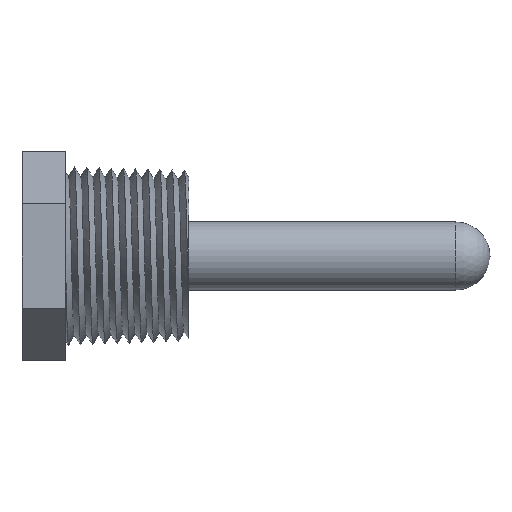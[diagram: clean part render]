
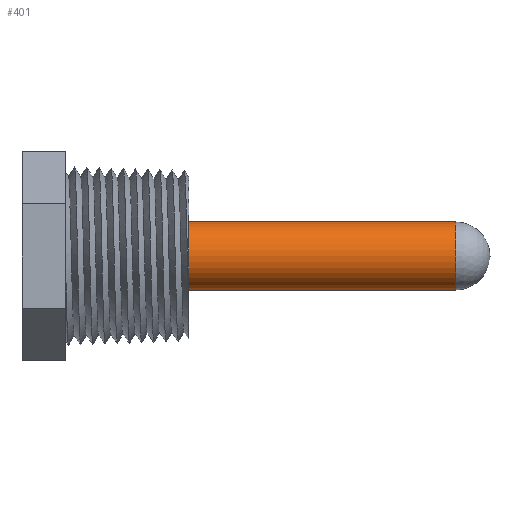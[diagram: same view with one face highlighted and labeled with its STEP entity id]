
A CAD part, front view. The second image highlights one B-rep face of the part: STEP entity #401.
In plain terms, the highlighted cylindrical face has radius 5.08 mm (diameter 10.16 mm), a full revolution.
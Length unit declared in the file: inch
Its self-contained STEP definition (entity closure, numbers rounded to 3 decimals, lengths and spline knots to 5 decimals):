
#18=CYLINDRICAL_SURFACE('',#447,0.2);
#27=CIRCLE('',#442,0.2);
#31=CIRCLE('',#448,0.2);
#32=CIRCLE('',#449,0.2);
#77=FACE_OUTER_BOUND('',#100,.T.);
#100=EDGE_LOOP('',(#318,#319,#320,#321,#322));
#129=LINE('',#4811,#151);
#151=VECTOR('',#519,0.2);
#177=VERTEX_POINT('',#4798);
#181=VERTEX_POINT('',#4808);
#182=VERTEX_POINT('',#4809);
#229=EDGE_CURVE('',#177,#177,#27,.T.);
#233=EDGE_CURVE('',#181,#182,#31,.T.);
#234=EDGE_CURVE('',#181,#177,#129,.T.);
#235=EDGE_CURVE('',#182,#181,#32,.T.);
#318=ORIENTED_EDGE('',*,*,#233,.F.);
#319=ORIENTED_EDGE('',*,*,#234,.T.);
#320=ORIENTED_EDGE('',*,*,#229,.T.);
#321=ORIENTED_EDGE('',*,*,#234,.F.);
#322=ORIENTED_EDGE('',*,*,#235,.F.);
#401=ADVANCED_FACE('',(#77),#18,.T.);
#442=AXIS2_PLACEMENT_3D('',#4799,#505,#506);
#447=AXIS2_PLACEMENT_3D('',#4807,#515,#516);
#448=AXIS2_PLACEMENT_3D('',#4810,#517,#518);
#449=AXIS2_PLACEMENT_3D('',#4812,#520,#521);
#505=DIRECTION('center_axis',(1.,0.,0.));
#506=DIRECTION('ref_axis',(0.,-0.5,0.866));
#515=DIRECTION('center_axis',(1.,0.,0.));
#516=DIRECTION('ref_axis',(0.,-0.5,0.866));
#517=DIRECTION('center_axis',(1.,0.,0.));
#518=DIRECTION('ref_axis',(0.,0.5,-0.866));
#519=DIRECTION('',(-1.,0.,0.));
#520=DIRECTION('center_axis',(1.,0.,0.));
#521=DIRECTION('ref_axis',(0.,0.5,-0.866));
#4798=CARTESIAN_POINT('',(2.06613,1.67326,1.20613));
#4799=CARTESIAN_POINT('Origin',(2.06613,1.57326,1.37933));
#4807=CARTESIAN_POINT('Origin',(2.85113,1.57326,1.37933));
#4808=CARTESIAN_POINT('',(3.63613,1.67326,1.20613));
#4809=CARTESIAN_POINT('',(3.63613,1.37326,1.37933));
#4810=CARTESIAN_POINT('Origin',(3.63613,1.57326,1.37933));
#4811=CARTESIAN_POINT('',(2.85113,1.67326,1.20613));
#4812=CARTESIAN_POINT('Origin',(3.63613,1.57326,1.37933));
